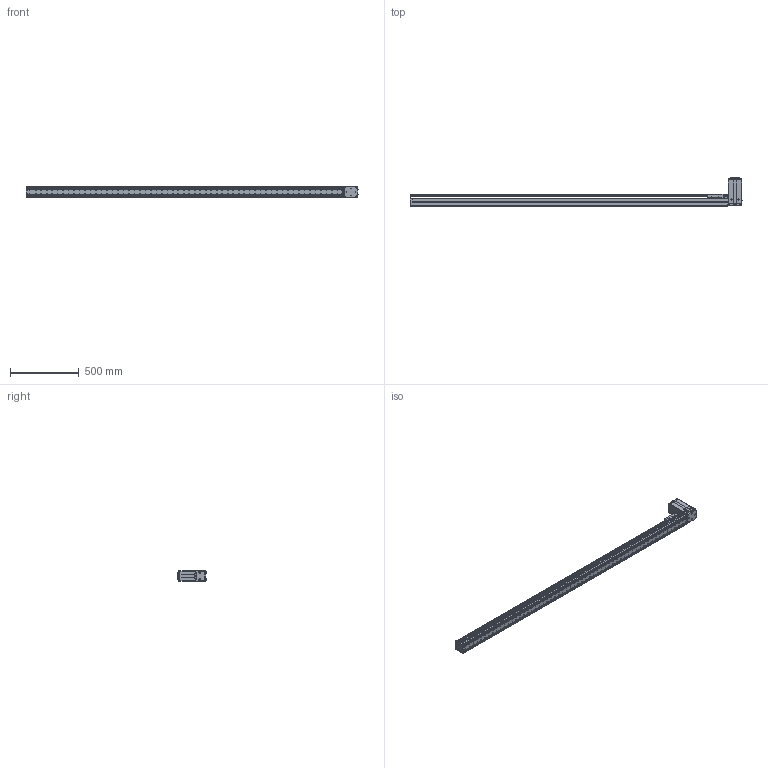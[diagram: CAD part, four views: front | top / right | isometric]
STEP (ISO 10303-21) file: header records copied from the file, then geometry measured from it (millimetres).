
FILE_DESCRIPTION((''),'2;1');
FILE_NAME('BE10_-BT-M_N-M0_IGS_PRT','2017-06-18T',(' '),(''),'PRO/ENGINEER BY PARAMETRIC TECHNOLOGY CORPORATION, 2015030','PRO/ENGINEER BY PARAMETRIC TECHNOLOGY CORPORATION, 2015030','');
FILE_SCHEMA(('CONFIG_CONTROL_DESIGN'));
Products named in the file (1): BE10_-BT-M_N-M0_IGS_PRT
Bounding box: 2420.8 x 204.72 x 78 mm (x, y, z)
Volume: 3119140.4 mm3; surface area: 2197618.3 mm2
Topology: 5 solids, 193 shells, 2436 faces, 6674 edges, 4461 vertices
Faces by surface type: cylinder 1192, plane 1081, cone 107, sphere 28, torus 25, bspline 3
Entity records: 80031 total; most frequent: CARTESIAN_POINT 16615, DIRECTION 13530, ORIENTED_EDGE 12484, EDGE_CURVE 6604, AXIS2_PLACEMENT_3D 5001, VERTEX_POINT 4457, VECTOR 3528, LINE 3528
